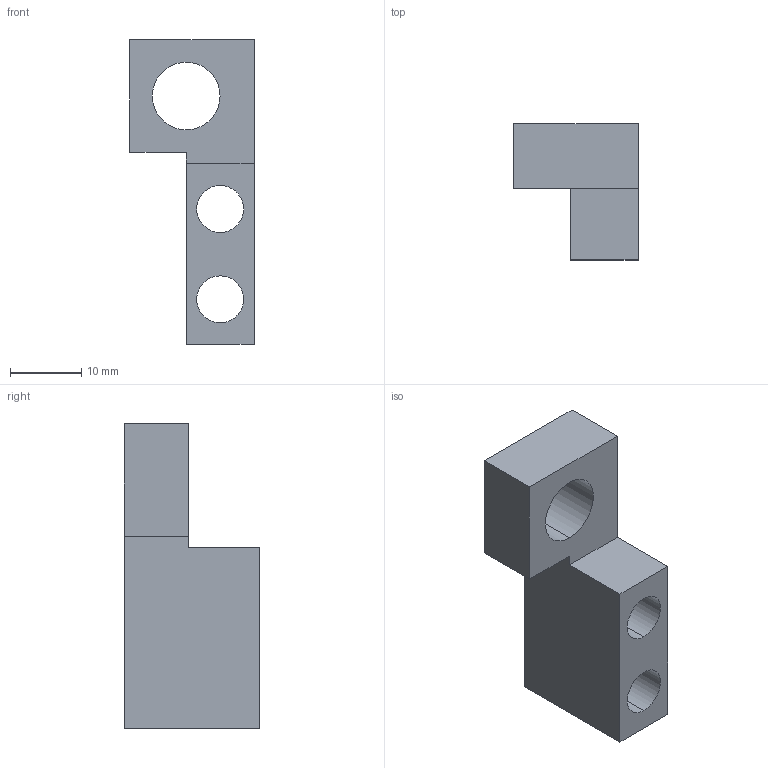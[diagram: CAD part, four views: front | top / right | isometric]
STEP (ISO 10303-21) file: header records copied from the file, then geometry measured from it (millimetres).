
FILE_DESCRIPTION (( 'STEP AP203' ), '1' );
FILE_NAME ('269-18-208.STEP', '2020-03-03T15:53:41', ( '' ), ( '' ), 'SwSTEP 2.0', 'SolidWorks 2017', '' );
FILE_SCHEMA (( 'CONFIG_CONTROL_DESIGN' ));
Length unit declared in the file: inch
Products named in the file (1): 269-18-208
Bounding box: 17.48 x 19.05 x 42.88 mm (x, y, z)
Volume: 5307.5 mm3; surface area: 3640.6 mm2
Topology: 1 solids, 1 shells, 16 faces, 42 edges, 28 vertices
Faces by surface type: plane 10, cylinder 6
Entity records: 589 total; most frequent: DIRECTION 88, CARTESIAN_POINT 87, ORIENTED_EDGE 84, EDGE_CURVE 42, LINE 30, VECTOR 30, AXIS2_PLACEMENT_3D 29, VERTEX_POINT 28
